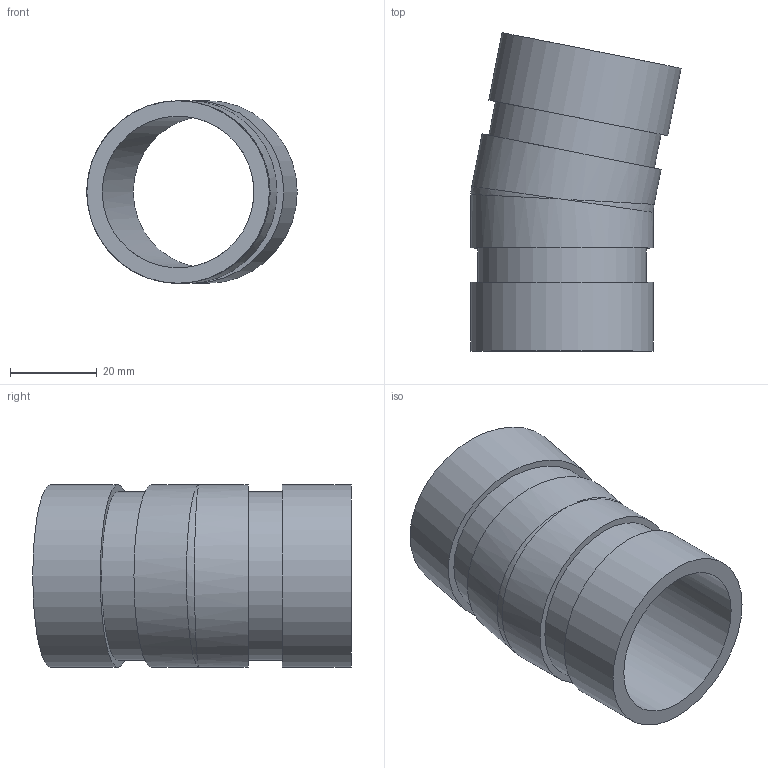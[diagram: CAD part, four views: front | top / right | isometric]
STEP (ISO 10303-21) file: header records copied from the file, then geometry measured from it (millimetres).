
FILE_DESCRIPTION(/* description */ ('VIC 11-1/4 DEG. ELBOW No 13','CAx-IF Rec.Pracs.---Representation and Presentation of Product Manufacturing Information (PMI)---4.0---2014-10-13'),/* implementation_level */ '2;1');
FILE_NAME(/* name */ 'C:\Users\kkamble\AppData\Roaming\Autodesk\ApplicationPlugins\Back Up\Victaulic_IPS_Elbow 11.25 Deg_No 13 (OGS)\Victaulic_IPS_Elbow 11.25 Deg_No 13 (OGS)_1.25 (32).stp',/* time_stamp */ '2020-07-24T08:08:46+06:00',/* author */ ('CONSTRUCTION PIPING SERVICES'),/* organization */ ('Victaulic'),/* preprocessor_version */ 'ST-DEVELOPER v17.2',/* originating_system */ 'Autodesk Inventor 2019',/* authorisation */ '');
FILE_SCHEMA (('AP242_MANAGED_MODEL_BASED_3D_ENGINEERING_MIM_LF { 1 0 10303 442 1 1 4 }'));
Length unit declared in the file: inch
Products named in the file (1): 013-01.25
Bounding box: 48.6 x 73.54 x 42.16 mm (x, y, z)
Volume: 27018.8 mm3; surface area: 18519.1 mm2
Topology: 1 solids, 1 shells, 16 faces, 37 edges, 23 vertices
Faces by surface type: cylinder 8, plane 6, bspline 2
Full cylindrical faces by diameter (mm): 35.052 x2, 38.989 x2, 42.164 x4
Entity records: 581 total; most frequent: CARTESIAN_POINT 151, DIRECTION 88, ORIENTED_EDGE 66, AXIS2_PLACEMENT_3D 40, EDGE_CURVE 33, VERTEX_POINT 23, EDGE_LOOP 22, STYLED_ITEM 17
